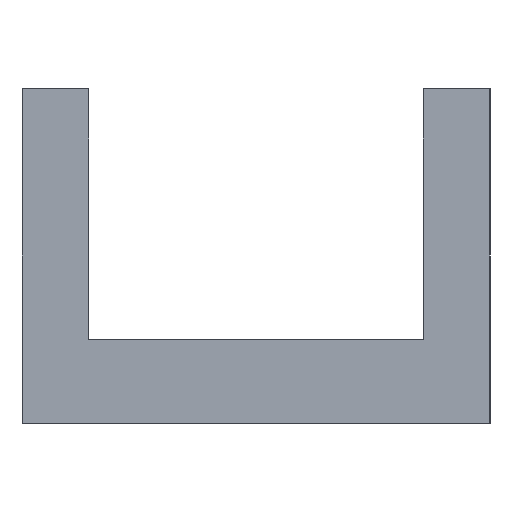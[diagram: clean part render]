
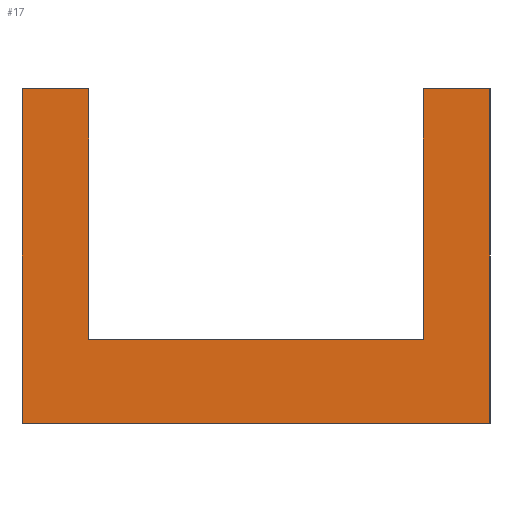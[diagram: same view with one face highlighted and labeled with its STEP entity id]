
A CAD part, left-side view. The second image highlights one B-rep face of the part: STEP entity #17.
In plain terms, the highlighted planar face has unit normal (-1, 0, 0).
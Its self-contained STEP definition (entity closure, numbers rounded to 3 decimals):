
#17 = ADVANCED_FACE('',(#18),#32,.F.);
#18 = FACE_BOUND('',#19,.F.);
#19 = EDGE_LOOP('',(#20,#55,#83,#111,#139,#167,#193,#219));
#20 = ORIENTED_EDGE('',*,*,#21,.F.);
#21 = EDGE_CURVE('',#22,#24,#26,.T.);
#22 = VERTEX_POINT('',#23);
#23 = CARTESIAN_POINT('',(-82.,-13.,22.));
#24 = VERTEX_POINT('',#25);
#25 = CARTESIAN_POINT('',(-82.,-11.,22.));
#26 = SURFACE_CURVE('',#27,(#31,#43),.PCURVE_S1.);
#27 = LINE('',#28,#29);
#28 = CARTESIAN_POINT('',(-82.,-13.,22.));
#29 = VECTOR('',#30,1.);
#30 = DIRECTION('',(0.,1.,0.));
#31 = PCURVE('',#32,#37);
#32 = PLANE('',#33);
#33 = AXIS2_PLACEMENT_3D('',#34,#35,#36);
#34 = CARTESIAN_POINT('',(-82.,-13.,12.));
#35 = DIRECTION('',(1.,0.,0.));
#36 = DIRECTION('',(0.,0.,1.));
#37 = DEFINITIONAL_REPRESENTATION('',(#38),#42);
#38 = LINE('',#39,#40);
#39 = CARTESIAN_POINT('',(10.,0.));
#40 = VECTOR('',#41,1.);
#41 = DIRECTION('',(0.,-1.));
#42 = ( GEOMETRIC_REPRESENTATION_CONTEXT(2) 
PARAMETRIC_REPRESENTATION_CONTEXT() REPRESENTATION_CONTEXT('2D SPACE',''
  ) );
#43 = PCURVE('',#44,#49);
#44 = PLANE('',#45);
#45 = AXIS2_PLACEMENT_3D('',#46,#47,#48);
#46 = CARTESIAN_POINT('',(-82.,-13.,22.));
#47 = DIRECTION('',(0.,0.,1.));
#48 = DIRECTION('',(1.,0.,0.));
#49 = DEFINITIONAL_REPRESENTATION('',(#50),#54);
#50 = LINE('',#51,#52);
#51 = CARTESIAN_POINT('',(0.,0.));
#52 = VECTOR('',#53,1.);
#53 = DIRECTION('',(0.,1.));
#54 = ( GEOMETRIC_REPRESENTATION_CONTEXT(2) 
PARAMETRIC_REPRESENTATION_CONTEXT() REPRESENTATION_CONTEXT('2D SPACE',''
  ) );
#55 = ORIENTED_EDGE('',*,*,#56,.F.);
#56 = EDGE_CURVE('',#57,#22,#59,.T.);
#57 = VERTEX_POINT('',#58);
#58 = CARTESIAN_POINT('',(-82.,-13.,12.));
#59 = SURFACE_CURVE('',#60,(#64,#71),.PCURVE_S1.);
#60 = LINE('',#61,#62);
#61 = CARTESIAN_POINT('',(-82.,-13.,12.));
#62 = VECTOR('',#63,1.);
#63 = DIRECTION('',(0.,0.,1.));
#64 = PCURVE('',#32,#65);
#65 = DEFINITIONAL_REPRESENTATION('',(#66),#70);
#66 = LINE('',#67,#68);
#67 = CARTESIAN_POINT('',(0.,0.));
#68 = VECTOR('',#69,1.);
#69 = DIRECTION('',(1.,0.));
#70 = ( GEOMETRIC_REPRESENTATION_CONTEXT(2) 
PARAMETRIC_REPRESENTATION_CONTEXT() REPRESENTATION_CONTEXT('2D SPACE',''
  ) );
#71 = PCURVE('',#72,#77);
#72 = PLANE('',#73);
#73 = AXIS2_PLACEMENT_3D('',#74,#75,#76);
#74 = CARTESIAN_POINT('',(-82.,-13.,12.));
#75 = DIRECTION('',(0.,1.,0.));
#76 = DIRECTION('',(0.,0.,1.));
#77 = DEFINITIONAL_REPRESENTATION('',(#78),#82);
#78 = LINE('',#79,#80);
#79 = CARTESIAN_POINT('',(0.,0.));
#80 = VECTOR('',#81,1.);
#81 = DIRECTION('',(1.,0.));
#82 = ( GEOMETRIC_REPRESENTATION_CONTEXT(2) 
PARAMETRIC_REPRESENTATION_CONTEXT() REPRESENTATION_CONTEXT('2D SPACE',''
  ) );
#83 = ORIENTED_EDGE('',*,*,#84,.T.);
#84 = EDGE_CURVE('',#57,#85,#87,.T.);
#85 = VERTEX_POINT('',#86);
#86 = CARTESIAN_POINT('',(-82.,1.,12.));
#87 = SURFACE_CURVE('',#88,(#92,#99),.PCURVE_S1.);
#88 = LINE('',#89,#90);
#89 = CARTESIAN_POINT('',(-82.,-13.,12.));
#90 = VECTOR('',#91,1.);
#91 = DIRECTION('',(0.,1.,0.));
#92 = PCURVE('',#32,#93);
#93 = DEFINITIONAL_REPRESENTATION('',(#94),#98);
#94 = LINE('',#95,#96);
#95 = CARTESIAN_POINT('',(0.,0.));
#96 = VECTOR('',#97,1.);
#97 = DIRECTION('',(0.,-1.));
#98 = ( GEOMETRIC_REPRESENTATION_CONTEXT(2) 
PARAMETRIC_REPRESENTATION_CONTEXT() REPRESENTATION_CONTEXT('2D SPACE',''
  ) );
#99 = PCURVE('',#100,#105);
#100 = PLANE('',#101);
#101 = AXIS2_PLACEMENT_3D('',#102,#103,#104);
#102 = CARTESIAN_POINT('',(-82.,-13.,12.));
#103 = DIRECTION('',(0.,0.,1.));
#104 = DIRECTION('',(1.,0.,0.));
#105 = DEFINITIONAL_REPRESENTATION('',(#106),#110);
#106 = LINE('',#107,#108);
#107 = CARTESIAN_POINT('',(0.,0.));
#108 = VECTOR('',#109,1.);
#109 = DIRECTION('',(0.,1.));
#110 = ( GEOMETRIC_REPRESENTATION_CONTEXT(2) 
PARAMETRIC_REPRESENTATION_CONTEXT() REPRESENTATION_CONTEXT('2D SPACE',''
  ) );
#111 = ORIENTED_EDGE('',*,*,#112,.T.);
#112 = EDGE_CURVE('',#85,#113,#115,.T.);
#113 = VERTEX_POINT('',#114);
#114 = CARTESIAN_POINT('',(-82.,1.,22.));
#115 = SURFACE_CURVE('',#116,(#120,#127),.PCURVE_S1.);
#116 = LINE('',#117,#118);
#117 = CARTESIAN_POINT('',(-82.,1.,12.));
#118 = VECTOR('',#119,1.);
#119 = DIRECTION('',(0.,0.,1.));
#120 = PCURVE('',#32,#121);
#121 = DEFINITIONAL_REPRESENTATION('',(#122),#126);
#122 = LINE('',#123,#124);
#123 = CARTESIAN_POINT('',(0.,-14.));
#124 = VECTOR('',#125,1.);
#125 = DIRECTION('',(1.,0.));
#126 = ( GEOMETRIC_REPRESENTATION_CONTEXT(2) 
PARAMETRIC_REPRESENTATION_CONTEXT() REPRESENTATION_CONTEXT('2D SPACE',''
  ) );
#127 = PCURVE('',#128,#133);
#128 = PLANE('',#129);
#129 = AXIS2_PLACEMENT_3D('',#130,#131,#132);
#130 = CARTESIAN_POINT('',(-82.,1.,12.));
#131 = DIRECTION('',(0.,1.,0.));
#132 = DIRECTION('',(0.,0.,1.));
#133 = DEFINITIONAL_REPRESENTATION('',(#134),#138);
#134 = LINE('',#135,#136);
#135 = CARTESIAN_POINT('',(0.,0.));
#136 = VECTOR('',#137,1.);
#137 = DIRECTION('',(1.,0.));
#138 = ( GEOMETRIC_REPRESENTATION_CONTEXT(2) 
PARAMETRIC_REPRESENTATION_CONTEXT() REPRESENTATION_CONTEXT('2D SPACE',''
  ) );
#139 = ORIENTED_EDGE('',*,*,#140,.F.);
#140 = EDGE_CURVE('',#141,#113,#143,.T.);
#141 = VERTEX_POINT('',#142);
#142 = CARTESIAN_POINT('',(-82.,-1.,22.));
#143 = SURFACE_CURVE('',#144,(#148,#155),.PCURVE_S1.);
#144 = LINE('',#145,#146);
#145 = CARTESIAN_POINT('',(-82.,-13.,22.));
#146 = VECTOR('',#147,1.);
#147 = DIRECTION('',(0.,1.,0.));
#148 = PCURVE('',#32,#149);
#149 = DEFINITIONAL_REPRESENTATION('',(#150),#154);
#150 = LINE('',#151,#152);
#151 = CARTESIAN_POINT('',(10.,0.));
#152 = VECTOR('',#153,1.);
#153 = DIRECTION('',(0.,-1.));
#154 = ( GEOMETRIC_REPRESENTATION_CONTEXT(2) 
PARAMETRIC_REPRESENTATION_CONTEXT() REPRESENTATION_CONTEXT('2D SPACE',''
  ) );
#155 = PCURVE('',#156,#161);
#156 = PLANE('',#157);
#157 = AXIS2_PLACEMENT_3D('',#158,#159,#160);
#158 = CARTESIAN_POINT('',(-82.,-13.,22.));
#159 = DIRECTION('',(0.,0.,1.));
#160 = DIRECTION('',(1.,0.,0.));
#161 = DEFINITIONAL_REPRESENTATION('',(#162),#166);
#162 = LINE('',#163,#164);
#163 = CARTESIAN_POINT('',(0.,0.));
#164 = VECTOR('',#165,1.);
#165 = DIRECTION('',(0.,1.));
#166 = ( GEOMETRIC_REPRESENTATION_CONTEXT(2) 
PARAMETRIC_REPRESENTATION_CONTEXT() REPRESENTATION_CONTEXT('2D SPACE',''
  ) );
#167 = ORIENTED_EDGE('',*,*,#168,.F.);
#168 = EDGE_CURVE('',#169,#141,#171,.T.);
#169 = VERTEX_POINT('',#170);
#170 = CARTESIAN_POINT('',(-82.,-1.,14.5));
#171 = SURFACE_CURVE('',#172,(#176,#182),.PCURVE_S1.);
#172 = LINE('',#173,#174);
#173 = CARTESIAN_POINT('',(-82.,-1.,13.25));
#174 = VECTOR('',#175,1.);
#175 = DIRECTION('',(0.,0.,1.));
#176 = PCURVE('',#32,#177);
#177 = DEFINITIONAL_REPRESENTATION('',(#178),#181);
#178 = B_SPLINE_CURVE_WITH_KNOTS('',1,(#179,#180),.UNSPECIFIED.,.F.,.F.,
  (2,2),(1.25,8.75),.PIECEWISE_BEZIER_KNOTS.);
#179 = CARTESIAN_POINT('',(2.5,-12.));
#180 = CARTESIAN_POINT('',(10.,-12.));
#181 = ( GEOMETRIC_REPRESENTATION_CONTEXT(2) 
PARAMETRIC_REPRESENTATION_CONTEXT() REPRESENTATION_CONTEXT('2D SPACE',''
  ) );
#182 = PCURVE('',#183,#188);
#183 = PLANE('',#184);
#184 = AXIS2_PLACEMENT_3D('',#185,#186,#187);
#185 = CARTESIAN_POINT('',(-84.,-1.,14.5));
#186 = DIRECTION('',(0.,1.,0.));
#187 = DIRECTION('',(0.,0.,1.));
#188 = DEFINITIONAL_REPRESENTATION('',(#189),#192);
#189 = B_SPLINE_CURVE_WITH_KNOTS('',1,(#190,#191),.UNSPECIFIED.,.F.,.F.,
  (2,2),(1.25,8.75),.PIECEWISE_BEZIER_KNOTS.);
#190 = CARTESIAN_POINT('',(0.,2.));
#191 = CARTESIAN_POINT('',(7.5,2.));
#192 = ( GEOMETRIC_REPRESENTATION_CONTEXT(2) 
PARAMETRIC_REPRESENTATION_CONTEXT() REPRESENTATION_CONTEXT('2D SPACE',''
  ) );
#193 = ORIENTED_EDGE('',*,*,#194,.T.);
#194 = EDGE_CURVE('',#169,#195,#197,.T.);
#195 = VERTEX_POINT('',#196);
#196 = CARTESIAN_POINT('',(-82.,-11.,14.5));
#197 = SURFACE_CURVE('',#198,(#202,#208),.PCURVE_S1.);
#198 = LINE('',#199,#200);
#199 = CARTESIAN_POINT('',(-82.,-12.,14.5));
#200 = VECTOR('',#201,1.);
#201 = DIRECTION('',(0.,-1.,0.));
#202 = PCURVE('',#32,#203);
#203 = DEFINITIONAL_REPRESENTATION('',(#204),#207);
#204 = B_SPLINE_CURVE_WITH_KNOTS('',1,(#205,#206),.UNSPECIFIED.,.F.,.F.,
  (2,2),(-11.,-1.),.PIECEWISE_BEZIER_KNOTS.);
#205 = CARTESIAN_POINT('',(2.5,-12.));
#206 = CARTESIAN_POINT('',(2.5,-2.));
#207 = ( GEOMETRIC_REPRESENTATION_CONTEXT(2) 
PARAMETRIC_REPRESENTATION_CONTEXT() REPRESENTATION_CONTEXT('2D SPACE',''
  ) );
#208 = PCURVE('',#209,#214);
#209 = PLANE('',#210);
#210 = AXIS2_PLACEMENT_3D('',#211,#212,#213);
#211 = CARTESIAN_POINT('',(-84.,-11.,14.5));
#212 = DIRECTION('',(0.,0.,1.));
#213 = DIRECTION('',(1.,0.,0.));
#214 = DEFINITIONAL_REPRESENTATION('',(#215),#218);
#215 = B_SPLINE_CURVE_WITH_KNOTS('',1,(#216,#217),.UNSPECIFIED.,.F.,.F.,
  (2,2),(-11.,-1.),.PIECEWISE_BEZIER_KNOTS.);
#216 = CARTESIAN_POINT('',(2.,10.));
#217 = CARTESIAN_POINT('',(2.,0.));
#218 = ( GEOMETRIC_REPRESENTATION_CONTEXT(2) 
PARAMETRIC_REPRESENTATION_CONTEXT() REPRESENTATION_CONTEXT('2D SPACE',''
  ) );
#219 = ORIENTED_EDGE('',*,*,#220,.T.);
#220 = EDGE_CURVE('',#195,#24,#221,.T.);
#221 = SURFACE_CURVE('',#222,(#226,#232),.PCURVE_S1.);
#222 = LINE('',#223,#224);
#223 = CARTESIAN_POINT('',(-82.,-11.,13.25));
#224 = VECTOR('',#225,1.);
#225 = DIRECTION('',(0.,0.,1.));
#226 = PCURVE('',#32,#227);
#227 = DEFINITIONAL_REPRESENTATION('',(#228),#231);
#228 = B_SPLINE_CURVE_WITH_KNOTS('',1,(#229,#230),.UNSPECIFIED.,.F.,.F.,
  (2,2),(1.25,8.75),.PIECEWISE_BEZIER_KNOTS.);
#229 = CARTESIAN_POINT('',(2.5,-2.));
#230 = CARTESIAN_POINT('',(10.,-2.));
#231 = ( GEOMETRIC_REPRESENTATION_CONTEXT(2) 
PARAMETRIC_REPRESENTATION_CONTEXT() REPRESENTATION_CONTEXT('2D SPACE',''
  ) );
#232 = PCURVE('',#233,#238);
#233 = PLANE('',#234);
#234 = AXIS2_PLACEMENT_3D('',#235,#236,#237);
#235 = CARTESIAN_POINT('',(-84.,-11.,14.5));
#236 = DIRECTION('',(0.,1.,0.));
#237 = DIRECTION('',(0.,0.,1.));
#238 = DEFINITIONAL_REPRESENTATION('',(#239),#242);
#239 = B_SPLINE_CURVE_WITH_KNOTS('',1,(#240,#241),.UNSPECIFIED.,.F.,.F.,
  (2,2),(1.25,8.75),.PIECEWISE_BEZIER_KNOTS.);
#240 = CARTESIAN_POINT('',(0.,2.));
#241 = CARTESIAN_POINT('',(7.5,2.));
#242 = ( GEOMETRIC_REPRESENTATION_CONTEXT(2) 
PARAMETRIC_REPRESENTATION_CONTEXT() REPRESENTATION_CONTEXT('2D SPACE',''
  ) );
